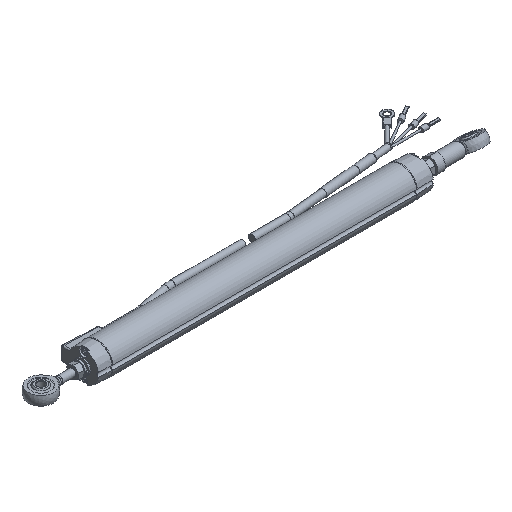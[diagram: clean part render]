
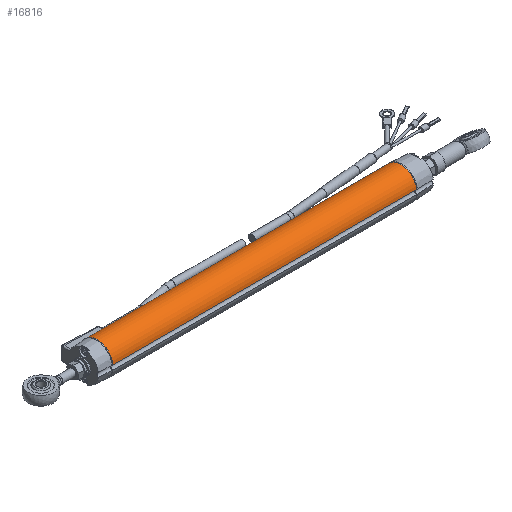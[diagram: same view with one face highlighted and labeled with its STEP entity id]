
A CAD part, isometric view. The second image highlights one B-rep face of the part: STEP entity #16816.
In plain terms, the highlighted cylindrical face has radius 11 mm (diameter 22 mm), a partial arc.
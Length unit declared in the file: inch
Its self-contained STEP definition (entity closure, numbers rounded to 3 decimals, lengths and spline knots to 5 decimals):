
#2020=FACE_OUTER_BOUND('',#2777,.T.);
#2777=EDGE_LOOP('',(#10245,#10246,#10247,#10248));
#3603=LINE('',#22573,#4225);
#3604=LINE('',#22579,#4226);
#4225=VECTOR('',#19207,0.3937);
#4226=VECTOR('',#19214,0.3937);
#4850=CIRCLE('',#17823,0.43307);
#4851=CIRCLE('',#17824,0.43307);
#5469=VERTEX_POINT('',#22570);
#5470=VERTEX_POINT('',#22572);
#5471=VERTEX_POINT('',#22576);
#5472=VERTEX_POINT('',#22578);
#7519=EDGE_CURVE('',#5470,#5469,#3603,.T.);
#7521=EDGE_CURVE('',#5469,#5471,#4850,.T.);
#7522=EDGE_CURVE('',#5472,#5471,#3604,.T.);
#7523=EDGE_CURVE('',#5472,#5470,#4851,.T.);
#10245=ORIENTED_EDGE('',*,*,#7521,.T.);
#10246=ORIENTED_EDGE('',*,*,#7522,.F.);
#10247=ORIENTED_EDGE('',*,*,#7523,.T.);
#10248=ORIENTED_EDGE('',*,*,#7519,.T.);
#15680=CYLINDRICAL_SURFACE('',#17822,0.43307);
#16816=ADVANCED_FACE('',(#2020),#15680,.T.);
#17822=AXIS2_PLACEMENT_3D('',#22575,#19210,#19211);
#17823=AXIS2_PLACEMENT_3D('',#22577,#19212,#19213);
#17824=AXIS2_PLACEMENT_3D('',#22580,#19215,#19216);
#19207=DIRECTION('',(1.,0.,0.));
#19210=DIRECTION('center_axis',(1.,0.,0.));
#19211=DIRECTION('ref_axis',(0.,0.99,0.139));
#19212=DIRECTION('center_axis',(-1.,0.,0.));
#19213=DIRECTION('ref_axis',(0.,0.99,0.139));
#19214=DIRECTION('',(1.,0.,0.));
#19215=DIRECTION('center_axis',(1.,0.,0.));
#19216=DIRECTION('ref_axis',(0.,0.99,0.139));
#22570=CARTESIAN_POINT('',(8.32575,-0.42889,0.06));
#22572=CARTESIAN_POINT('',(0.15276,-0.42889,0.06));
#22573=CARTESIAN_POINT('',(0.15276,-0.42889,0.06));
#22575=CARTESIAN_POINT('Origin',(0.15276,0.,0.));
#22576=CARTESIAN_POINT('',(8.32575,0.42889,0.06));
#22577=CARTESIAN_POINT('Origin',(8.32575,0.,0.));
#22578=CARTESIAN_POINT('',(0.15276,0.42889,0.06));
#22579=CARTESIAN_POINT('',(0.15276,0.42889,0.06));
#22580=CARTESIAN_POINT('Origin',(0.15276,0.,0.));
